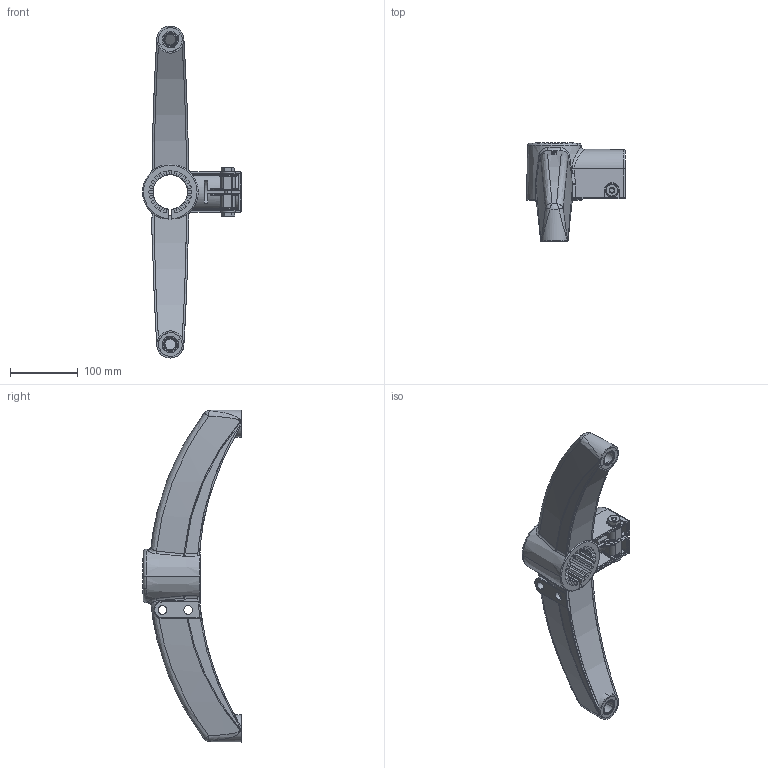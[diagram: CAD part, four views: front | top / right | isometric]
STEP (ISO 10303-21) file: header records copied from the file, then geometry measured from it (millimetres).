
FILE_DESCRIPTION(('CATIA V5 STEP Exchange'),'2;1');
FILE_NAME('X:\CODICI MOVEX\3D per clienti\Tom\16-11-2012\P40206_01.stp','2012-11-16T16:50:56+00:00',('none'),('none'),'CATIA Version 5 Release 21 SP 1 (IN-10)','CATIA V5 STEP AP203','none');
FILE_SCHEMA(('CONFIG_CONTROL_DESIGN'));
Products named in the file (1): Product1
Assembly tree (5 placements, depth 2):
  Product1
    #58
    #112298
    #112884
    #113680  x2
Bounding box: 145.97 x 144.67 x 490 mm (x, y, z)
Volume: 803755.3 mm3; surface area: 350532.7 mm2
Topology: 5 solids, 9 shells, 2206 faces, 5946 edges, 3686 vertices
Faces by surface type: bspline 782, plane 716, cylinder 446, torus 86, extrusion 76, sphere 63, cone 37
Entity records: 113843 total; most frequent: CARTESIAN_POINT 70155, ORIENTED_EDGE 11714, EDGE_CURVE 5867, DIRECTION 4420, B_SPLINE_CURVE_WITH_KNOTS 3779, VERTEX_POINT 3678, EDGE_LOOP 2240, ADVANCED_FACE 2200
